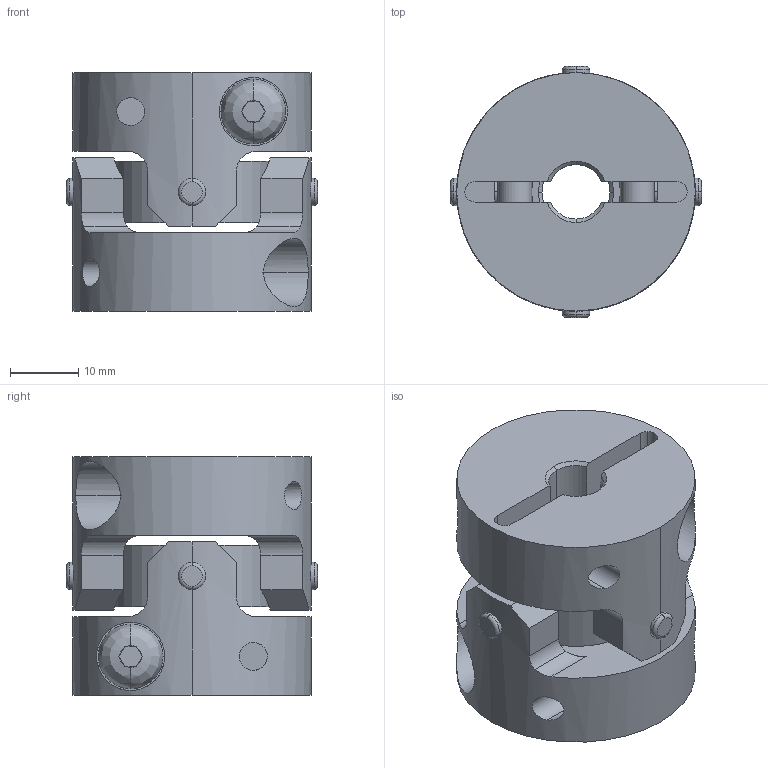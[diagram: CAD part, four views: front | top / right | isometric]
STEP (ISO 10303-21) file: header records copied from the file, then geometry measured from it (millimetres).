
FILE_DESCRIPTION((''),'2;1');
FILE_NAME('UA-35C-8×10.stp','2013-05-22T08:45:22',(''),(''),'AutoCAD STEP 2000i','AutoCAD 2000i',', , ');
FILE_SCHEMA(('CONFIG_CONTROL_DESIGN'));
Length unit declared in the file: millimetre
Products named in the file (6): UA-35C-8×8; 忣兜1; UA-3502-D08-1; BTN-M5; UA-3502-D08; UA35-SEN
Assembly tree (6 placements, depth 3):
  UA-35C-8×8
    忣兜1
    UA-3502-D08-1
      BTN-M5
    UA-3502-D08
      BTN-M5
    UA35-SEN
Bounding box: 36.83 x 36.83 x 35 mm (x, y, z)
Volume: 23097.4 mm3; surface area: 12025.9 mm2
Topology: 1 solids, 1 shells, 250 faces, 646 edges, 408 vertices
Faces by surface type: plane 122, cylinder 96, cone 16, bspline 8, torus 8
Entity records: 9647 total; most frequent: CARTESIAN_POINT 3391, ORIENTED_EDGE 1292, DIRECTION 1288, EDGE_CURVE 646, AXIS2_PLACEMENT_3D 497, VERTEX_POINT 408, VECTOR 294, LINE 294
